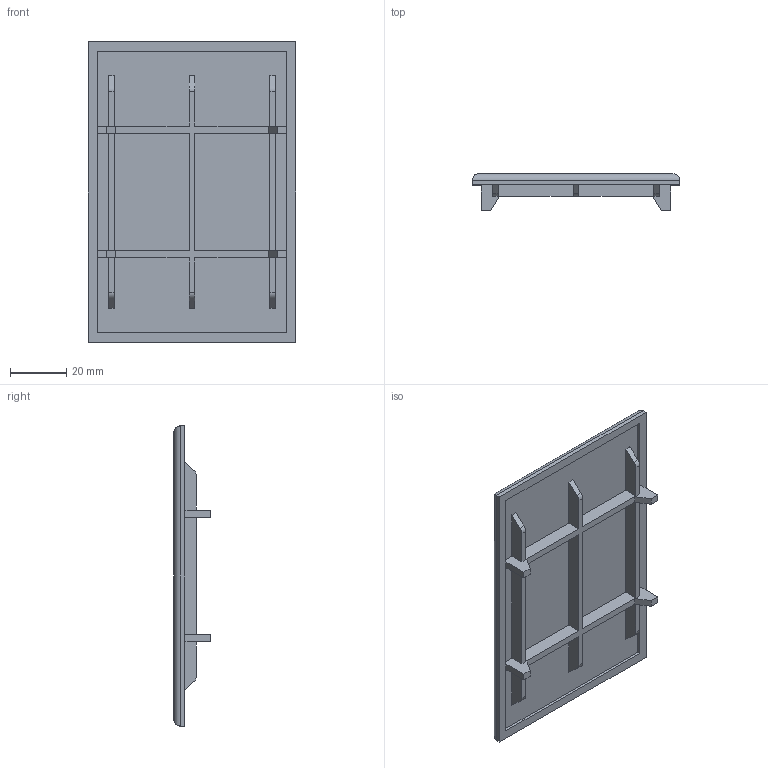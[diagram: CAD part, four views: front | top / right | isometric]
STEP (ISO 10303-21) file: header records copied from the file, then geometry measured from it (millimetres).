
FILE_DESCRIPTION (( 'STEP AP203' ), '1' );
FILE_NAME ('321175_Abdeckkappe Winkel 8 80x80.step', '2021-11-04T15:25:03', ( '' ), ( '' ), 'SwSTEP 2.0', 'SolidWorks 2021', '' );
FILE_SCHEMA (( 'CONFIG_CONTROL_DESIGN' ));
Length unit declared in the file: millimetre
Products named in the file (1): 321175_Abdeckkappe Winkel 8 80x80
Bounding box: 74 x 13 x 107 mm (x, y, z)
Volume: 28543 mm3; surface area: 20988.3 mm2
Topology: 1 solids, 1 shells, 81 faces, 222 edges, 144 vertices
Faces by surface type: plane 71, cylinder 10
Entity records: 2589 total; most frequent: CARTESIAN_POINT 460, ORIENTED_EDGE 444, DIRECTION 394, EDGE_CURVE 222, VECTOR 206, LINE 206, VERTEX_POINT 144, AXIS2_PLACEMENT_3D 94
